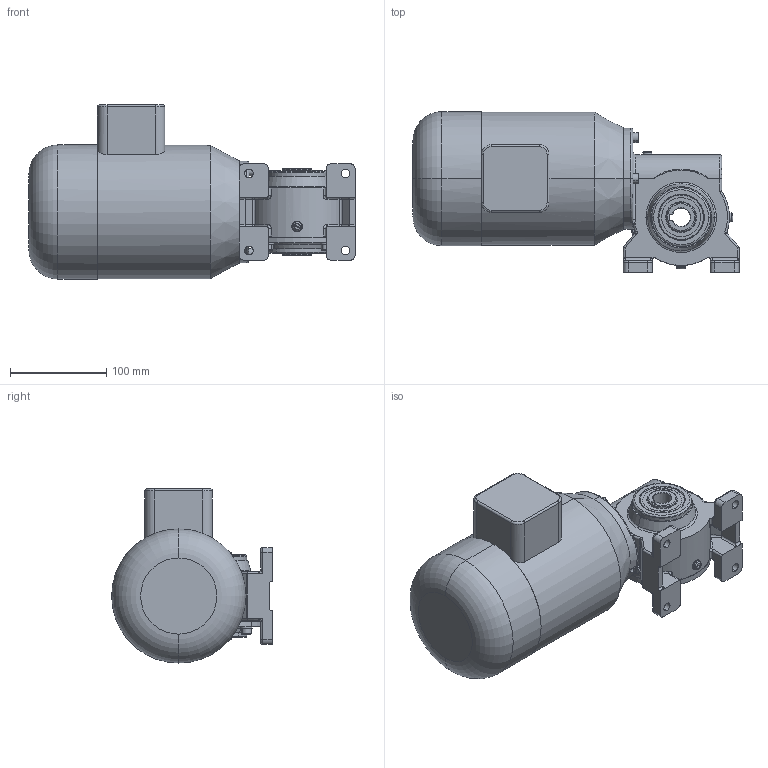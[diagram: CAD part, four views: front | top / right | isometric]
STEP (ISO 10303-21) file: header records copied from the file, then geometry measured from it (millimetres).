
FILE_DESCRIPTION (( 'STEP AP214' ), '1' );
FILE_NAME ('SN9SHH_250W_Drehstrom-Motor_C.STEP', '2021-05-10T10:34:41', ( '' ), ( '' ), 'SwSTEP 2.0', 'SolidWorks 2019', '' );
FILE_SCHEMA (( 'AUTOMOTIVE_DESIGN' ));
Length unit declared in the file: millimetre
Products named in the file (1): SN9SHH_250W_Drehstrom-Motor_C
Bounding box: 338 x 166.5 x 180.5 mm (x, y, z)
Surface area: 212814.9 mm2 (no closed solid volume)
Topology: 0 solids, 28 shells, 447 faces, 1206 edges, 752 vertices
Faces by surface type: cylinder 157, plane 151, torus 69, cone 47, bspline 20, sphere 3
Entity records: 20591 total; most frequent: CARTESIAN_POINT 4573, DIRECTION 2479, ORIENTED_EDGE 2114, EDGE_CURVE 1178, AXIS2_PLACEMENT_3D 992, VERTEX_POINT 749, CIRCLE 564, EDGE_LOOP 507
